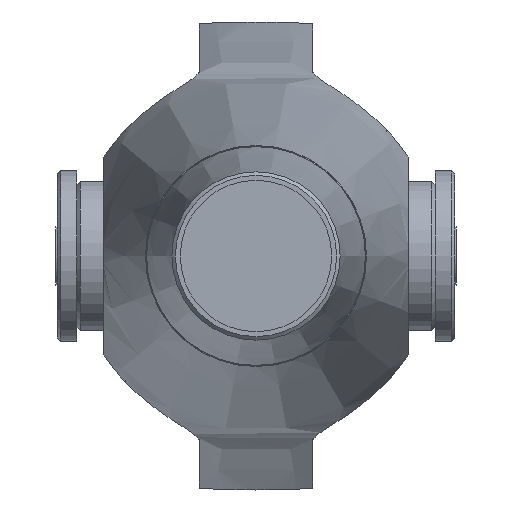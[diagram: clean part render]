
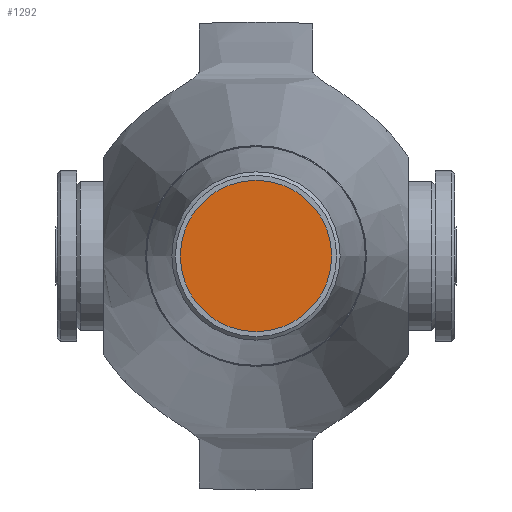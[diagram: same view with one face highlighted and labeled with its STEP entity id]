
A CAD part, left-side view. The second image highlights one B-rep face of the part: STEP entity #1292.
In plain terms, the highlighted planar face has unit normal (-1, 0, 0).
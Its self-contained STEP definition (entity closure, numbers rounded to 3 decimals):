
#89=PLANE('',#1418);
#132=FACE_OUTER_BOUND('',#210,.T.);
#210=EDGE_LOOP('',(#870,#871));
#436=CIRCLE('',#1416,46.5);
#437=CIRCLE('',#1417,46.5);
#522=VERTEX_POINT('',#2000);
#523=VERTEX_POINT('',#2002);
#658=EDGE_CURVE('',#523,#522,#436,.T.);
#659=EDGE_CURVE('',#522,#523,#437,.T.);
#870=ORIENTED_EDGE('',*,*,#658,.T.);
#871=ORIENTED_EDGE('',*,*,#659,.T.);
#1292=ADVANCED_FACE('',(#132),#89,.T.);
#1416=AXIS2_PLACEMENT_3D('',#2003,#1622,#1623);
#1417=AXIS2_PLACEMENT_3D('',#2004,#1624,#1625);
#1418=AXIS2_PLACEMENT_3D('',#2005,#1626,#1627);
#1622=DIRECTION('center_axis',(-1.,0.,0.));
#1623=DIRECTION('ref_axis',(0.,0.,-1.));
#1624=DIRECTION('center_axis',(-1.,0.,0.));
#1625=DIRECTION('ref_axis',(0.,0.,-1.));
#1626=DIRECTION('center_axis',(-1.,0.,0.));
#1627=DIRECTION('ref_axis',(0.,0.,-1.));
#2000=CARTESIAN_POINT('',(-937.5,-46.5,0.));
#2002=CARTESIAN_POINT('',(-937.5,46.5,0.));
#2003=CARTESIAN_POINT('Origin',(-937.5,0.,
0.));
#2004=CARTESIAN_POINT('Origin',(-937.5,0.,
0.));
#2005=CARTESIAN_POINT('Origin',(-937.5,0.,
0.));
